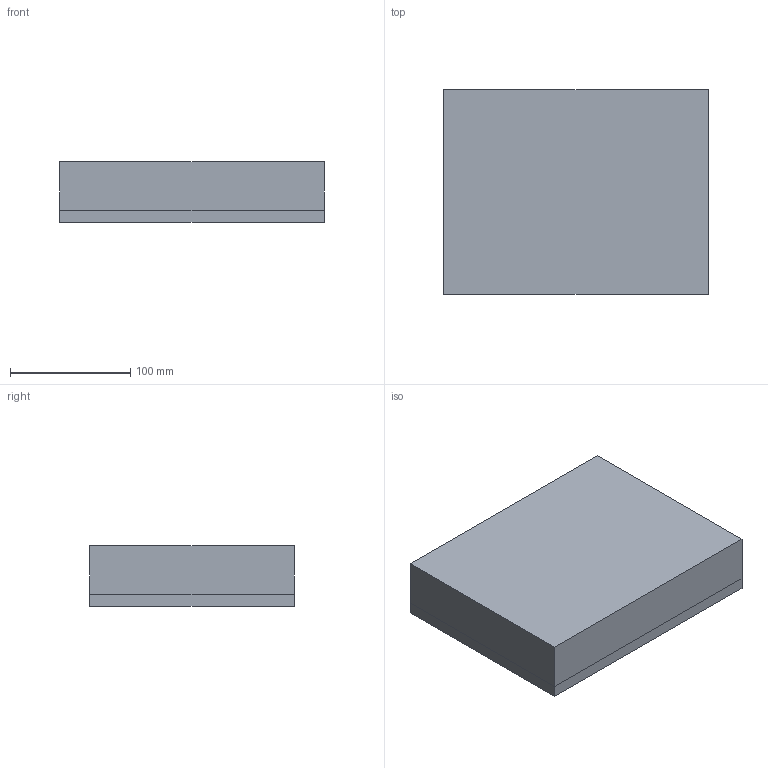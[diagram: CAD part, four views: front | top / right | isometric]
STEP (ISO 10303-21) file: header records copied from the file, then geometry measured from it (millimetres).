
FILE_DESCRIPTION(('CATIA V5 STEP Exchange'),'2;1');
FILE_NAME('C:\_Andres\UNIVERSIDAD\IQS\ASIGNATURAS\DAO\Controles\1920\c2\c2-Serrallonga_Boixader_Miquel.stp','2020-02-10T15:38:39+00:00',('none'),('none'),'CATIA Version 5 Release 19 SP 3 (IN-10)','CATIA V5 STEP AP203','none');
FILE_SCHEMA(('CONFIG_CONTROL_DESIGN'));
Length unit declared in the file: millimetre
Products named in the file (1): c2-Serrallonga_Boixader_Miquel
Bounding box: 220 x 170 x 50 mm (x, y, z)
Surface area: 288130.4 mm2
Topology: 3 solids, 3 shells, 103 faces, 232 edges, 128 vertices
Faces by surface type: cylinder 40, plane 27, bspline 24, sphere 12
Entity records: 3348 total; most frequent: CARTESIAN_POINT 1636, ORIENTED_EDGE 440, DIRECTION 224, EDGE_CURVE 164, EDGE_LOOP 110, ADVANCED_FACE 103, FACE_OUTER_BOUND 103, AXIS2_PLACEMENT_3D 96
